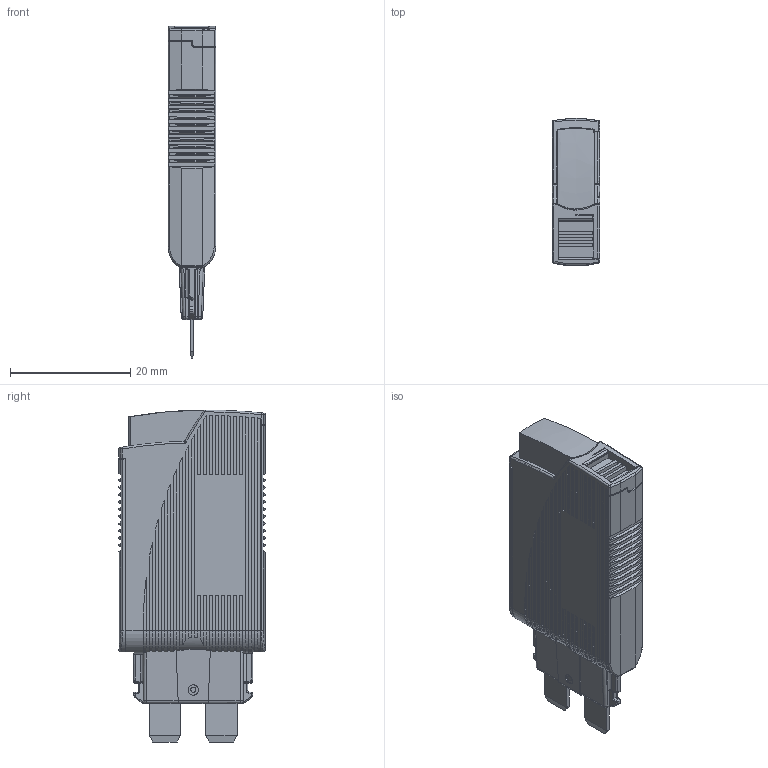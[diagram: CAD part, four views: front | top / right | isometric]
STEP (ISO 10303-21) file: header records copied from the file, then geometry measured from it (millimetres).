
FILE_DESCRIPTION((''),'2;1');
FILE_NAME('1180_DUMMY','2009-03-09T',('agerngross'),(''),'PRO/ENGINEER BY PARAMETRIC TECHNOLOGY CORPORATION, 2007370','PRO/ENGINEER BY PARAMETRIC TECHNOLOGY CORPORATION, 2007370','');
FILE_SCHEMA(('AUTOMOTIVE_DESIGN_CC2 { 1 2 10303 214 -1 1 5 2 }'));
Length unit declared in the file: millimetre
Products named in the file (1): 1180_DUMMY
Bounding box: 7.92 x 24.4 x 55.2 mm (x, y, z)
Surface area: 3891.5 mm2 (no closed solid volume)
Topology: 0 solids, 2 shells, 802 faces, 2243 edges, 1447 vertices
Faces by surface type: plane 477, cylinder 248, bspline 35, torus 24, sphere 15, cone 2, extrusion 1
Entity records: 27588 total; most frequent: CARTESIAN_POINT 7363, ORIENTED_EDGE 4451, DIRECTION 3902, EDGE_CURVE 2230, VERTEX_POINT 1447, VECTOR 1442, LINE 1441, AXIS2_PLACEMENT_3D 1230
